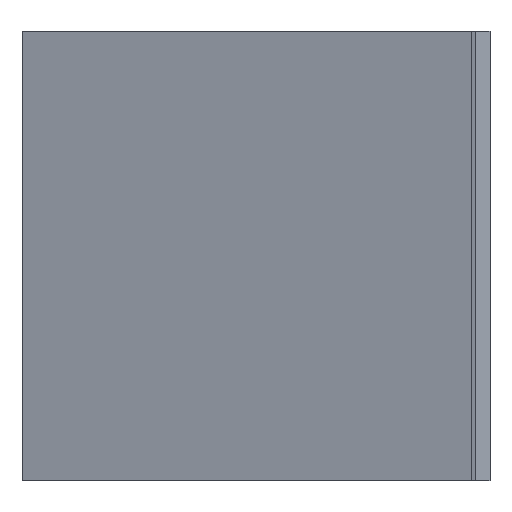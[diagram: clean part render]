
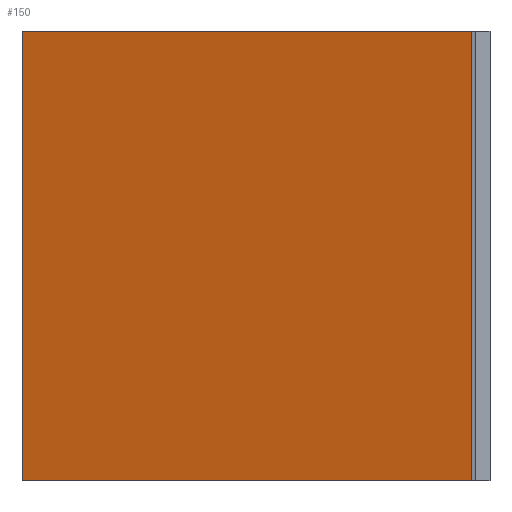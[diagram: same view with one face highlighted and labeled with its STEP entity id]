
A CAD part, left-side view. The second image highlights one B-rep face of the part: STEP entity #150.
In plain terms, the highlighted planar face has unit normal (0.958, -0.288, 0).
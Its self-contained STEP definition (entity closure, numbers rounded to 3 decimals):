
#98=CARTESIAN_POINT('Vertex',(20.,0.,0.)) ;
#101=CARTESIAN_POINT('Line Origine',(20.,0.,61.5)) ;
#105=CARTESIAN_POINT('Vertex',(20.,0.,123.)) ;
#120=CARTESIAN_POINT('Axis2P3D Location',(20.,0.,0.)) ;
#125=CARTESIAN_POINT('Line Origine',(38.5,61.5,0.)) ;
#129=CARTESIAN_POINT('Vertex',(57.,123.,0.)) ;
#132=CARTESIAN_POINT('Line Origine',(57.,123.,61.5)) ;
#136=CARTESIAN_POINT('Vertex',(57.,123.,123.)) ;
#139=CARTESIAN_POINT('Line Origine',(38.5,61.5,123.)) ;
#102=DIRECTION('Vector Direction',(0.,0.,1.)) ;
#121=DIRECTION('Axis2P3D Direction',(0.958,-0.288,0.)) ;
#122=DIRECTION('Axis2P3D XDirection',(0.288,0.958,0.)) ;
#126=DIRECTION('Vector Direction',(0.288,0.958,0.)) ;
#133=DIRECTION('Vector Direction',(0.,0.,1.)) ;
#140=DIRECTION('Vector Direction',(0.288,0.958,0.)) ;
#123=AXIS2_PLACEMENT_3D('Plane Axis2P3D',#120,#121,#122) ;
#145=ORIENTED_EDGE('',*,*,#107,.F.) ;
#146=ORIENTED_EDGE('',*,*,#131,.T.) ;
#147=ORIENTED_EDGE('',*,*,#138,.T.) ;
#148=ORIENTED_EDGE('',*,*,#143,.F.) ;
#103=VECTOR('Line Direction',#102,1.) ;
#127=VECTOR('Line Direction',#126,1.) ;
#134=VECTOR('Line Direction',#133,1.) ;
#141=VECTOR('Line Direction',#140,1.) ;
#150=ADVANCED_FACE('Extrude.1',(#149),#124,.T.) ;
#107=EDGE_CURVE('',#99,#106,#104,.T.) ;
#131=EDGE_CURVE('',#99,#130,#128,.T.) ;
#138=EDGE_CURVE('',#130,#137,#135,.T.) ;
#143=EDGE_CURVE('',#106,#137,#142,.T.) ;
#144=EDGE_LOOP('',(#145,#146,#147,#148)) ;
#149=FACE_OUTER_BOUND('',#144,.T.) ;
#104=LINE('Line',#101,#103) ;
#128=LINE('Line',#125,#127) ;
#135=LINE('Line',#132,#134) ;
#142=LINE('Line',#139,#141) ;
#124=PLANE('',#123) ;
#99=VERTEX_POINT('',#98) ;
#106=VERTEX_POINT('',#105) ;
#130=VERTEX_POINT('',#129) ;
#137=VERTEX_POINT('',#136) ;
